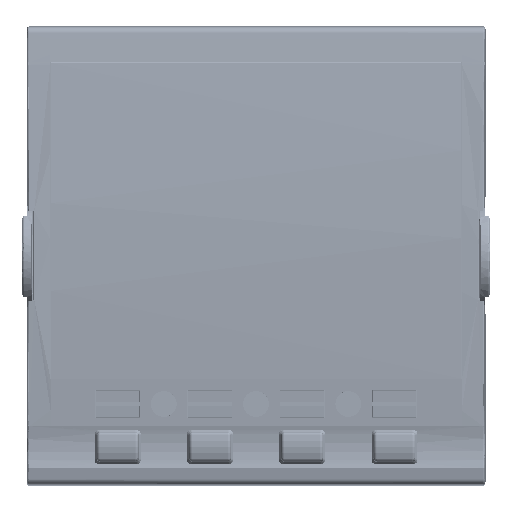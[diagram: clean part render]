
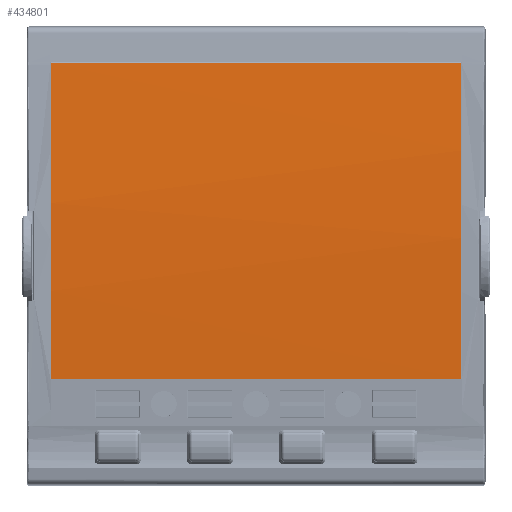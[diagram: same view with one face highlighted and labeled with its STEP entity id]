
A CAD part, top view. The second image highlights one B-rep face of the part: STEP entity #434801.
In plain terms, the highlighted cylindrical face has radius 446.23 mm (diameter 892.461 mm), a partial arc.
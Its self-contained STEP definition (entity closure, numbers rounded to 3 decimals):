
#419344=CARTESIAN_POINT('',(6.054,88.456,
-6.677));
#419345=CARTESIAN_POINT('',(6.055,81.138,
-6.054));
#419346=CARTESIAN_POINT('',(6.056,66.469,
-5.169));
#419347=CARTESIAN_POINT('',(6.056,44.428,
-4.93));
#419348=CARTESIAN_POINT('',(6.056,29.743,
-5.496));
#419349=CARTESIAN_POINT('',(6.055,22.414,
-5.96));
#419351=CARTESIAN_POINT('',(6.055,22.414,
-5.96));
#419398=CARTESIAN_POINT('',(91.874,22.417,
-5.96));
#419400=CARTESIAN_POINT('',(91.874,22.417,
-5.96));
#419401=CARTESIAN_POINT('',(91.873,29.747,
-5.496));
#419402=CARTESIAN_POINT('',(91.874,44.434,
-4.93));
#419403=CARTESIAN_POINT('',(91.872,66.471,
-5.17));
#419404=CARTESIAN_POINT('',(91.876,81.138,
-6.054));
#419405=CARTESIAN_POINT('',(91.878,88.456,
-6.677));
#419429=DIRECTION('',(-1.,0.,
0.));
#419430=VECTOR('',#419429,85.82);
#419431=CARTESIAN_POINT('',(91.874,22.417,
-5.96));
#419432=LINE('',#419431,#419430);
#419433=DIRECTION('',(-1.,0.,0.));
#419434=VECTOR('',#419433,85.824);
#419435=CARTESIAN_POINT('',(91.878,88.456,
-6.677));
#419436=LINE('',#419435,#419434);
#421762=VERTEX_POINT('',#419398);
#421763=VERTEX_POINT('',#419351);
#421764=VERTEX_POINT('',#419405);
#421765=VERTEX_POINT('',#419344);
#434789=CARTESIAN_POINT('',(4.336,50.607,
-451.299));
#434790=DIRECTION('',(1.,0.,0.));
#434791=DIRECTION('',(0.,0.085,0.996));
#434792=AXIS2_PLACEMENT_3D('',#434789,#434790,#434791);
#434793=CYLINDRICAL_SURFACE('',#434792,446.23);
#434794=ORIENTED_EDGE('',*,*,#434752,.F.);
#434795=ORIENTED_EDGE('',*,*,#434784,.T.);
#434796=ORIENTED_EDGE('',*,*,#434716,.F.);
#434798=ORIENTED_EDGE('',*,*,#434797,.F.);
#434799=EDGE_LOOP('',(#434794,#434795,#434796,#434798));
#434800=FACE_OUTER_BOUND('',#434799,.F.);
#419350=B_SPLINE_CURVE_WITH_KNOTS('',3,(#419344,#419345,#419346,#419347,#419348,
#419349),.UNSPECIFIED.,.F.,.F.,(4,1,1,4),(0.,0.333,
0.667,1.),.UNSPECIFIED.);
#419406=B_SPLINE_CURVE_WITH_KNOTS('',3,(#419400,#419401,#419402,#419403,#419404,
#419405),.UNSPECIFIED.,.F.,.F.,(4,1,1,4),(0.,0.333,
0.667,1.),.UNSPECIFIED.);
#434716=EDGE_CURVE('',#421765,#421763,#419350,.T.);
#434752=EDGE_CURVE('',#421762,#421764,#419406,.T.);
#434784=EDGE_CURVE('',#421762,#421763,#419432,.T.);
#434797=EDGE_CURVE('',#421764,#421765,#419436,.T.);
#434801=ADVANCED_FACE('',(#434800),#434793,.T.);
